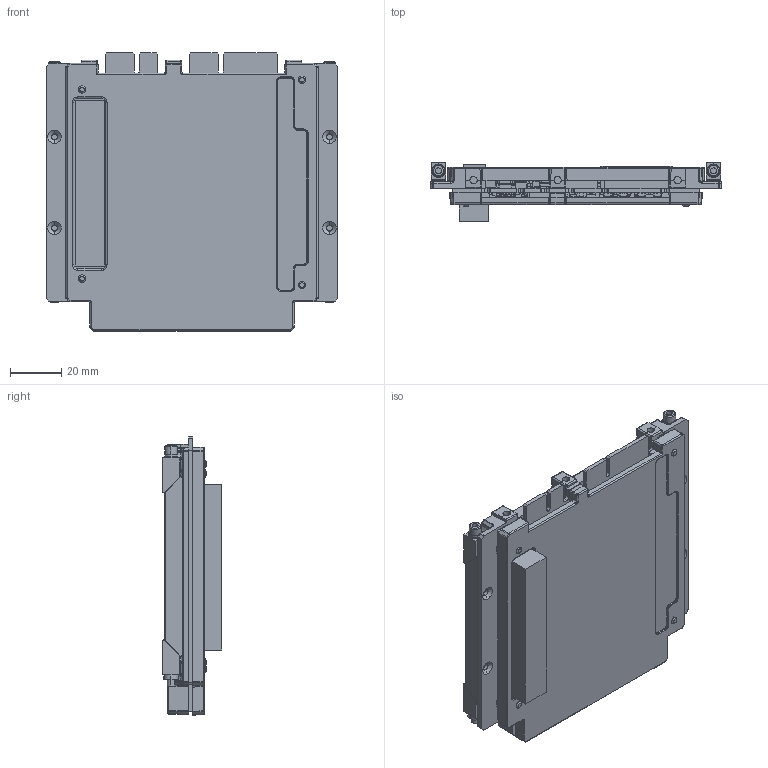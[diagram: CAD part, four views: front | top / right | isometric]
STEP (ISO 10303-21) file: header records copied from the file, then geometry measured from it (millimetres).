
FILE_DESCRIPTION((''),'2;1');
FILE_NAME('RANGER_ASSLY_ASM_ASM','2012-05-14T',('madhusel'),(''),'PRO/ENGINEER BY PARAMETRIC TECHNOLOGY CORPORATION, 2011370','PRO/ENGINEER BY PARAMETRIC TECHNOLOGY CORPORATION, 2011370','');
FILE_SCHEMA(('CONFIG_CONTROL_DESIGN'));
Products named in the file (56): 48-2140-01_TEMP; 48-2140-01_TEMP_1; 48-2140-01_TEMP_2; 48-2140-01_TEMP_3; 700-34225-01; 700-34229-01; 700-34682-01; 700-34682-01_1; 700-34682-01_2; 700-34682-01_3; 700-34684-01; 700-35077-01; 700-35078-01; WEDGE-LOK-40-7; WEDGE-LOK-40-7-1; 28-9906-03_A0_F-PCI_HEIGHT; SHROUD; CON-119-HDRPF-T0_G_HCL; TSSOP-16-S0; BGA-64-S0; FBGA-256-S6-PB_R; RN8040-8-S1_R; TQFP-176-P4-S0_R; QFN-16-S3_R; L1616-S3_R; TXFMR-50-S0_R; FBGA-668-S1-PB_R; LFCSP-40-S1_R; FBGA-84-P8-S3-PB_R; FIDG-40RD_R; LABEL-CHINA_ROHS20_R; SSOP-28-212-S0_R; QFN-10-S3_R; SOT23-6-S0_R; R0402-S0_R; C0402-S0_R; C1206-S1_R; C1210-S1_R; C1206-S0_R; C0805-S0_R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
Assembly tree (846 placements, depth 3):
  RANGER_ASSLY_ASM_ASM
    48-2140-01_TEMP
    48-2140-01_TEMP_1
    48-2140-01_TEMP_2
    48-2140-01_TEMP_3
    700-34225-01
    700-34229-01
    700-34682-01
    700-34682-01_1
    700-34682-01_2
    700-34682-01_3
    700-34684-01
    700-35077-01
    700-35078-01
    WEDGE-LOK-40-7
    WEDGE-LOK-40-7-1
    28-9906-03_A0_F-PCI_HEIGHT_ASM
      28-9906-03_A0_F-PCI_HEIGHT
      SHROUD
      CON-119-HDRPF-T0_G_HCL
      TSSOP-16-S0
      BGA-64-S0
      FBGA-256-S6-PB_R
      RN8040-8-S1_R  x14
      TQFP-176-P4-S0_R
      QFN-16-S3_R  x2
      L1616-S3_R  x2
      TXFMR-50-S0_R
      FBGA-668-S1-PB_R
      LFCSP-40-S1_R
      FBGA-84-P8-S3-PB_R  x4
      FIDG-40RD_R  x6
      LABEL-CHINA_ROHS20_R
      SSOP-28-212-S0_R
      QFN-10-S3_R  x2
      SOT23-6-S0_R  x5
      R0402-S0_R  x304
      C0402-S0_R  x365
      C1206-S1_R  x3
      C1210-S1_R  x10
      C1206-S0_R  x8
      C0805-S0_R  x29
      C0603-S0_R  x30
      L0603-S0_R  x6
      TP25X35RD10_R  x7
      LABEL-L2-PB-FREE_R
      QFN-20-S5_R_HCL
      TXFMR_16_S1
      TP25X35RD10_R_HCL  x2
      MTG250RD125-8P_G_HCL  x4
      MTG125N_R_HCL
      QFN-48-TP-S0  x2
      QFN-8-TPVIA-S0
      SOT23_6_S0
      OSCHC535R-4-S0  x4
      LIND-2-S0  x3
Bounding box: 113.79 x 23.01 x 108.44 mm (x, y, z)
Volume: 47797.2 mm3; surface area: 98013.9 mm2
Topology: 847 solids, 849 shells, 9478 faces, 22701 edges, 14866 vertices
Faces by surface type: plane 8240, cylinder 618, bspline 231, torus 152, sphere 143, cone 94
Entity records: 77209 total; most frequent: CARTESIAN_POINT 23362, DIRECTION 12418, ORIENTED_EDGE 9306, AXIS2_PLACEMENT_3D 5044, EDGE_CURVE 4893, VERTEX_POINT 2994, VECTOR 2330, LINE 2330
